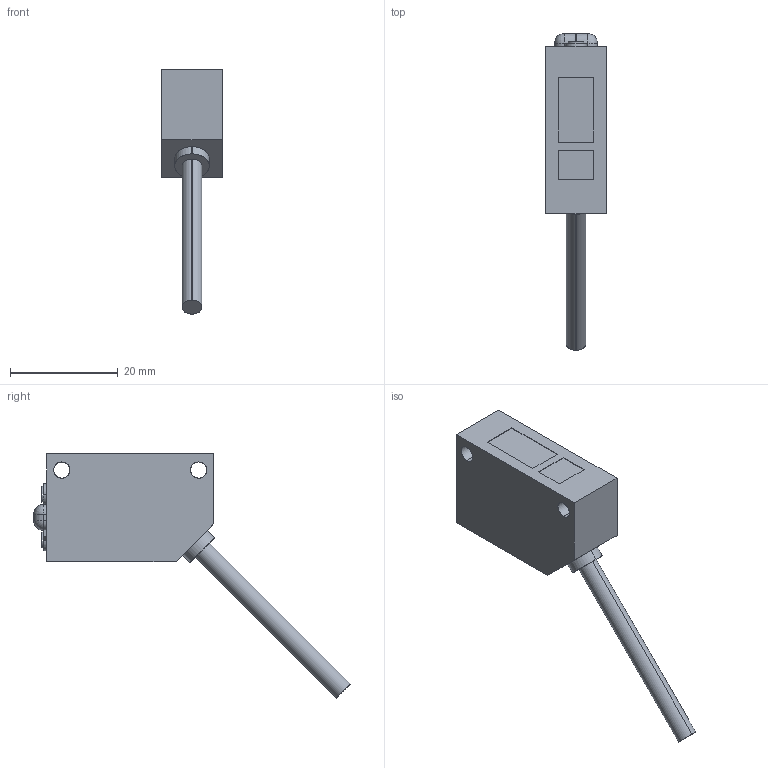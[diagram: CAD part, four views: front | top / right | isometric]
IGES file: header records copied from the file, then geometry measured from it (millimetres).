
Start section: SolidWorks IGES FILE using analytic representation for surfaces
Global section: file name: \\intra-srv04\開発データ\CAD_Data\CAD委員会\3D電子ｶﾀﾛｸﾞ\製品カタログ（新）\0_IGES\CX-441.IGS,41HSolidWorks 2004; native system: by SolidWorks Corporation; preprocessor: Version 5.3; author: yk0651; date: 050908.105200; units: millimetre
Bounding box: 11.2 x 58.71 x 45.31 mm (x, y, z)
Surface area: 2998.8 mm2 (no closed solid volume)
Topology: 0 solids, 0 shells, 80 faces, 902 edges, 898 vertices
Faces by surface type: bspline 45, revolution 35
